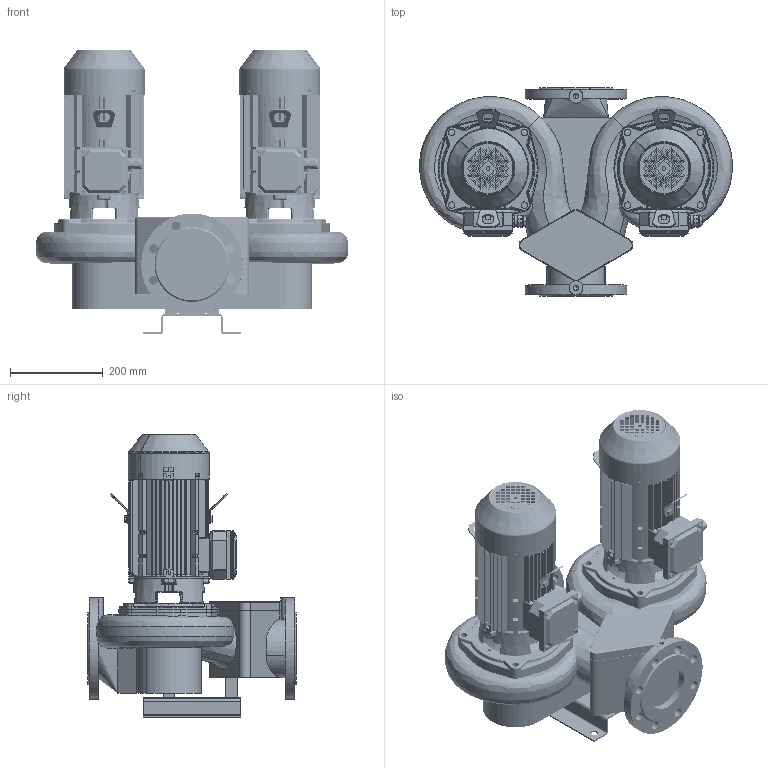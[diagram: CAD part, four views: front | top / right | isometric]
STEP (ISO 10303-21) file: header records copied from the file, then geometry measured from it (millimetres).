
FILE_DESCRIPTION(('STEP AP214'),'1');
FILE_NAME('export.stp','2018-05-28T12:38:37',(' '),(' '),'Spatial InterOp 3D',' ',' ');
FILE_SCHEMA(('AUTOMOTIVE_DESIGN { 1 0 10303 214 1 1 1 1 }'));
Length unit declared in the file: millimetre
Products named in the file (29): W_AT11024150KP90; V_TLL65AB80A1102; V_PPAT1102; V_JALKA35973; 160024; 160004_Valu; V_MKP90-2_F19; 480039; 480038___; 160141; 160137; 160138; 160139; 160140; Koura_Ale_M5; Plug_Blind_M20; Sealing_Plug_M20; DIN_7985-M5X8; DIN_7985-M5X12; 480037; 480036___; 160135; 160134; DIN_EN_24017_-_M8_16-Stainless_S
Assembly tree (54 placements, depth 4):
  W_AT11024150KP90
    V_TLL65AB80A1102  x2
    V_PPAT1102
    V_JALKA35973
    V_MKP90-2_F19
      160024
        160004_Valu
      480039
        480038___
      160141
        160137
        160138
        160139
        160140
        Koura_Ale_M5
        Plug_Blind_M20
        Sealing_Plug_M20
        DIN_7985-M5X8
        DIN_7985-M5X12  x4
      480037
        480036___
      160135
      160134  x2
      DIN_EN_24017_-_M8_16-Stainless_S  x2
    V_MKP90-2_F19
      160024
        160004_Valu
      480039
        480038___
      160141
        160137
        160138
        160139
        160140
        Koura_Ale_M5
        Plug_Blind_M20
        Sealing_Plug_M20
        DIN_7985-M5X8
        DIN_7985-M5X12  x4
      480037
        480036___
      160135
      160134  x2
      DIN_EN_24017_-_M8_16-Stainless_S  x2
Bounding box: 675.64 x 450 x 612.99 mm (x, y, z)
Volume: 29755486.4 mm3; surface area: 4900108.5 mm2
Topology: 44 solids, 44 shells, 5235 faces, 13820 edges, 8659 vertices
Faces by surface type: plane 2173, cylinder 1601, torus 561, bspline 506, cone 320, sphere 74
Entity records: 106930 total; most frequent: CARTESIAN_POINT 35464, ORIENTED_EDGE 13918, DIRECTION 13033, EDGE_CURVE 6959, AXIS2_PLACEMENT_3D 4929, VERTEX_POINT 4416, LINE 3175, VECTOR 3175
